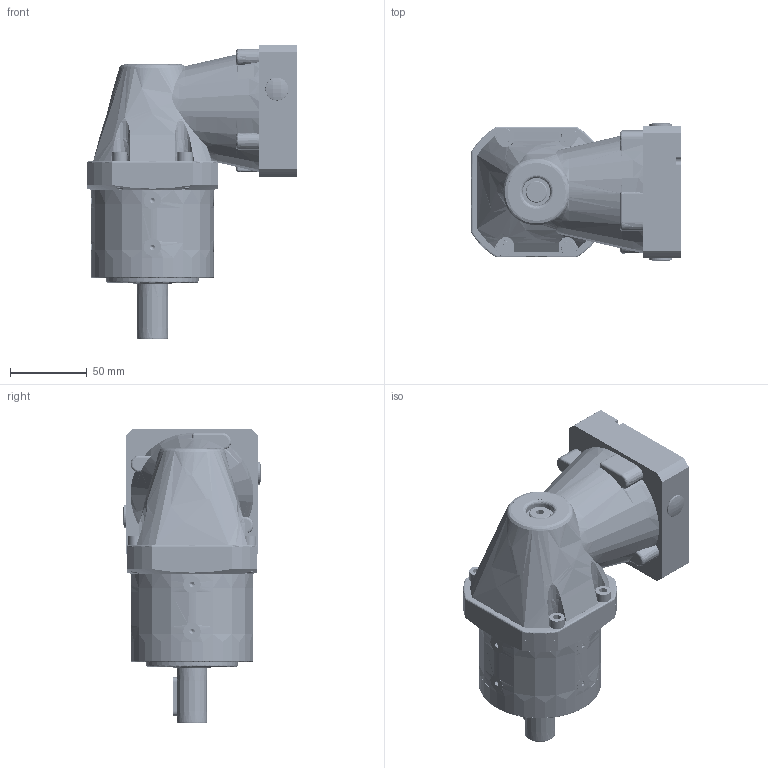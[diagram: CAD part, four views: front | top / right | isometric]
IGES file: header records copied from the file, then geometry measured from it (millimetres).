
Start section: SolidWorks IGES file using analytic representation for surfaces
Global section: file name: C:\TeknicPDM\Remarketed and Private Label Products\Gearboxes\Gearbox Customer Files\GSLR (Newstart WPL Series)\GSLR-080-0_ _-N034_-XX Single Stage.IGS; native system: SolidWorks 2020; preprocessor: SolidWorks 2020; author: zeb_koch; date: 250826.111121; units: millimetre
Bounding box: 136.5 x 90.39 x 192 mm (x, y, z)
Surface area: 213592.8 mm2 (no closed solid volume)
Topology: 0 solids, 0 shells, 1610 faces, 31856 edges, 31736 vertices
Faces by surface type: bspline 888, revolution 722
